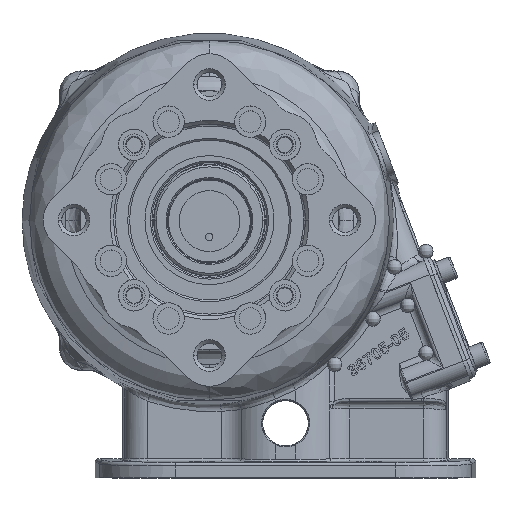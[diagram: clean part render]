
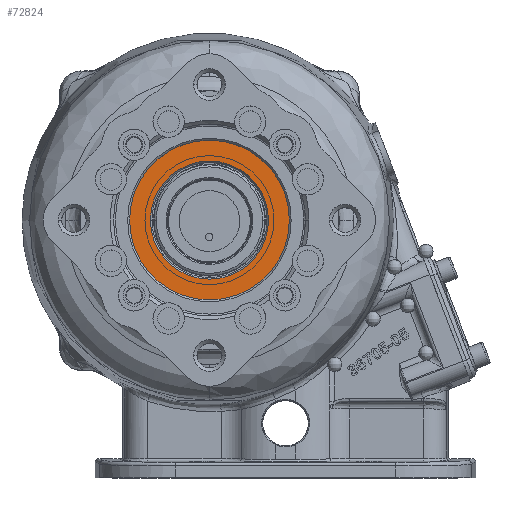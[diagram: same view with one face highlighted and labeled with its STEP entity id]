
A CAD part, top view. The second image highlights one B-rep face of the part: STEP entity #72824.
In plain terms, the highlighted planar face has unit normal (0, 0, 1).
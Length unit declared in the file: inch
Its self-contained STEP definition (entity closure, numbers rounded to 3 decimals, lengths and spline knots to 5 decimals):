
#3133 = DIRECTION ( 'NONE',  ( 0., 0., 1. ) ) ;
#8060 = EDGE_CURVE ( 'NONE', #54425, #118624, #32109, .T. ) ;
#13734 = CARTESIAN_POINT ( 'NONE',  ( -1.3895, 0., 0. ) ) ;
#19410 = DIRECTION ( 'NONE',  ( 1., 0., 0. ) ) ;
#22190 = AXIS2_PLACEMENT_3D ( 'NONE', #62478, #48736, #41356 ) ;
#23082 = EDGE_CURVE ( 'NONE', #85334, #90158, #38346, .T. ) ;
#23627 = FACE_OUTER_BOUND ( 'NONE', #155563, .T. ) ;
#28544 = CARTESIAN_POINT ( 'NONE',  ( 0., 0., 0. ) ) ;
#29811 = DIRECTION ( 'NONE',  ( 1., 0., 0. ) ) ;
#30367 = DIRECTION ( 'NONE',  ( 0., 0., 1. ) ) ;
#31482 = EDGE_LOOP ( 'NONE', ( #42297, #131349 ) ) ;
#32109 = CIRCLE ( 'NONE', #47608, 0.97 ) ;
#33934 = DIRECTION ( 'NONE',  ( 0., 0., 1. ) ) ;
#37387 = PLANE ( 'NONE',  #22190 ) ;
#38346 = CIRCLE ( 'NONE', #59002, 1.3895 ) ;
#41356 = DIRECTION ( 'NONE',  ( -1., 0., 0. ) ) ;
#42297 = ORIENTED_EDGE ( 'NONE', *, *, #8060, .F. ) ;
#47608 = AXIS2_PLACEMENT_3D ( 'NONE', #140029, #3133, #29811 ) ;
#48736 = DIRECTION ( 'NONE',  ( 0., 0., -1. ) ) ;
#50135 = CIRCLE ( 'NONE', #148423, 1.3895 ) ;
#54425 = VERTEX_POINT ( 'NONE', #61916 ) ;
#59002 = AXIS2_PLACEMENT_3D ( 'NONE', #28544, #66609, #91728 ) ;
#60519 = CIRCLE ( 'NONE', #68304, 0.97 ) ;
#61916 = CARTESIAN_POINT ( 'NONE',  ( 0.97, 0., 0. ) ) ;
#62478 = CARTESIAN_POINT ( 'NONE',  ( 0., 0., 0. ) ) ;
#66609 = DIRECTION ( 'NONE',  ( 0., 0., 1. ) ) ;
#68304 = AXIS2_PLACEMENT_3D ( 'NONE', #79803, #30367, #121640 ) ;
#72824 = ADVANCED_FACE ( 'NONE', ( #23627, #159700 ), #37387, .F. ) ;
#79803 = CARTESIAN_POINT ( 'NONE',  ( 0., 0., 0. ) ) ;
#83752 = CARTESIAN_POINT ( 'NONE',  ( 1.3895, 0., 0. ) ) ;
#84184 = CARTESIAN_POINT ( 'NONE',  ( 0., 0., 0. ) ) ;
#85334 = VERTEX_POINT ( 'NONE', #13734 ) ;
#90158 = VERTEX_POINT ( 'NONE', #83752 ) ;
#91728 = DIRECTION ( 'NONE',  ( 1., 0., 0. ) ) ;
#94501 = ORIENTED_EDGE ( 'NONE', *, *, #145098, .T. ) ;
#104876 = CARTESIAN_POINT ( 'NONE',  ( -0.97, 0., 0. ) ) ;
#118624 = VERTEX_POINT ( 'NONE', #104876 ) ;
#119369 = ORIENTED_EDGE ( 'NONE', *, *, #23082, .T. ) ;
#121640 = DIRECTION ( 'NONE',  ( 1., 0., 0. ) ) ;
#131349 = ORIENTED_EDGE ( 'NONE', *, *, #144836, .F. ) ;
#140029 = CARTESIAN_POINT ( 'NONE',  ( 0., 0., 0. ) ) ;
#144836 = EDGE_CURVE ( 'NONE', #118624, #54425, #60519, .T. ) ;
#145098 = EDGE_CURVE ( 'NONE', #90158, #85334, #50135, .T. ) ;
#148423 = AXIS2_PLACEMENT_3D ( 'NONE', #84184, #33934, #19410 ) ;
#155563 = EDGE_LOOP ( 'NONE', ( #94501, #119369 ) ) ;
#159700 = FACE_BOUND ( 'NONE', #31482, .T. ) ;
